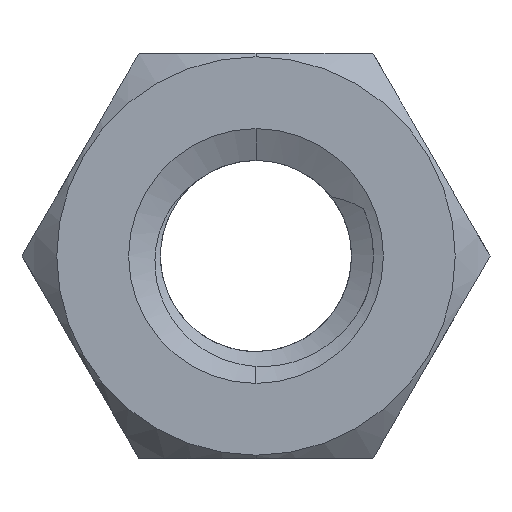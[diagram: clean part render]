
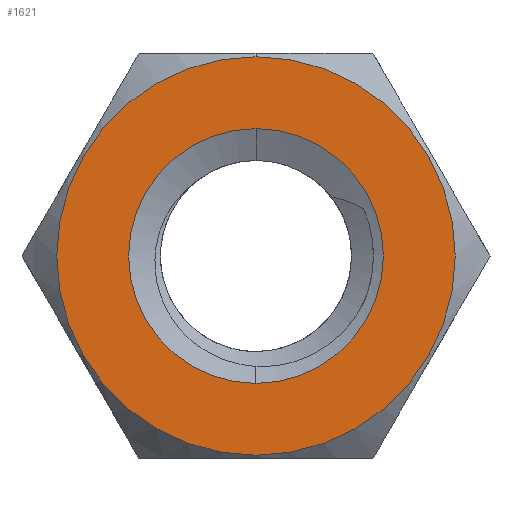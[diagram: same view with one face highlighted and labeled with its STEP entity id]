
A CAD part, front view. The second image highlights one B-rep face of the part: STEP entity #1621.
In plain terms, the highlighted planar face has unit normal (0, -1, 0).
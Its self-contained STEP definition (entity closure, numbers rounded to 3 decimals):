
#38 = EDGE_CURVE ( 'NONE', #1805, #880, #674, .T. ) ;
#67 = EDGE_CURVE ( 'NONE', #880, #1805, #1209, .T. ) ;
#128 = EDGE_LOOP ( 'NONE', ( #1390, #607 ) ) ;
#153 = DIRECTION ( 'NONE',  ( 0., 0., -1. ) ) ;
#266 = AXIS2_PLACEMENT_3D ( 'NONE', #1656, #1489, #492 ) ;
#292 = EDGE_CURVE ( 'NONE', #458, #633, #1008, .T. ) ;
#458 = VERTEX_POINT ( 'NONE', #1509 ) ;
#459 = ORIENTED_EDGE ( 'NONE', *, *, #38, .F. ) ;
#468 = CARTESIAN_POINT ( 'NONE',  ( 0., -1.1, 0. ) ) ;
#489 = CARTESIAN_POINT ( 'NONE',  ( 0., -1.1, 0. ) ) ;
#492 = DIRECTION ( 'NONE',  ( 0., 0., -1. ) ) ;
#588 = DIRECTION ( 'NONE',  ( 0., -1., 0. ) ) ;
#607 = ORIENTED_EDGE ( 'NONE', *, *, #985, .T. ) ;
#614 = AXIS2_PLACEMENT_3D ( 'NONE', #489, #1010, #1643 ) ;
#633 = VERTEX_POINT ( 'NONE', #1641 ) ;
#674 = CIRCLE ( 'NONE', #933, 2.2 ) ;
#803 = DIRECTION ( 'NONE',  ( 0., -1., 0. ) ) ;
#880 = VERTEX_POINT ( 'NONE', #1235 ) ;
#933 = AXIS2_PLACEMENT_3D ( 'NONE', #1304, #1971, #1962 ) ;
#985 = EDGE_CURVE ( 'NONE', #633, #458, #1355, .T. ) ;
#1008 = CIRCLE ( 'NONE', #1284, 3.441 ) ;
#1010 = DIRECTION ( 'NONE',  ( 0., 1., 0. ) ) ;
#1135 = PLANE ( 'NONE',  #614 ) ;
#1209 = CIRCLE ( 'NONE', #266, 2.2 ) ;
#1235 = CARTESIAN_POINT ( 'NONE',  ( 0., -1.1, 2.2 ) ) ;
#1265 = DIRECTION ( 'NONE',  ( 0., 0., -1. ) ) ;
#1284 = AXIS2_PLACEMENT_3D ( 'NONE', #468, #803, #153 ) ;
#1302 = FACE_OUTER_BOUND ( 'NONE', #128, .T. ) ;
#1304 = CARTESIAN_POINT ( 'NONE',  ( 0., -1.1, 0. ) ) ;
#1355 = CIRCLE ( 'NONE', #1950, 3.441 ) ;
#1390 = ORIENTED_EDGE ( 'NONE', *, *, #292, .T. ) ;
#1489 = DIRECTION ( 'NONE',  ( 0., -1., 0. ) ) ;
#1509 = CARTESIAN_POINT ( 'NONE',  ( 0., -1.1, 3.441 ) ) ;
#1621 = ADVANCED_FACE ( 'NONE', ( #2139, #1302 ), #1135, .F. ) ;
#1641 = CARTESIAN_POINT ( 'NONE',  ( 0., -1.1, -3.441 ) ) ;
#1643 = DIRECTION ( 'NONE',  ( 0., 0., 1. ) ) ;
#1656 = CARTESIAN_POINT ( 'NONE',  ( 0., -1.1, 0. ) ) ;
#1805 = VERTEX_POINT ( 'NONE', #1876 ) ;
#1876 = CARTESIAN_POINT ( 'NONE',  ( 0., -1.1, -2.2 ) ) ;
#1950 = AXIS2_PLACEMENT_3D ( 'NONE', #2122, #588, #1265 ) ;
#1962 = DIRECTION ( 'NONE',  ( 0., 0., -1. ) ) ;
#1971 = DIRECTION ( 'NONE',  ( 0., -1., 0. ) ) ;
#1988 = ORIENTED_EDGE ( 'NONE', *, *, #67, .F. ) ;
#2122 = CARTESIAN_POINT ( 'NONE',  ( 0., -1.1, 0. ) ) ;
#2139 = FACE_BOUND ( 'NONE', #2155, .T. ) ;
#2155 = EDGE_LOOP ( 'NONE', ( #1988, #459 ) ) ;
